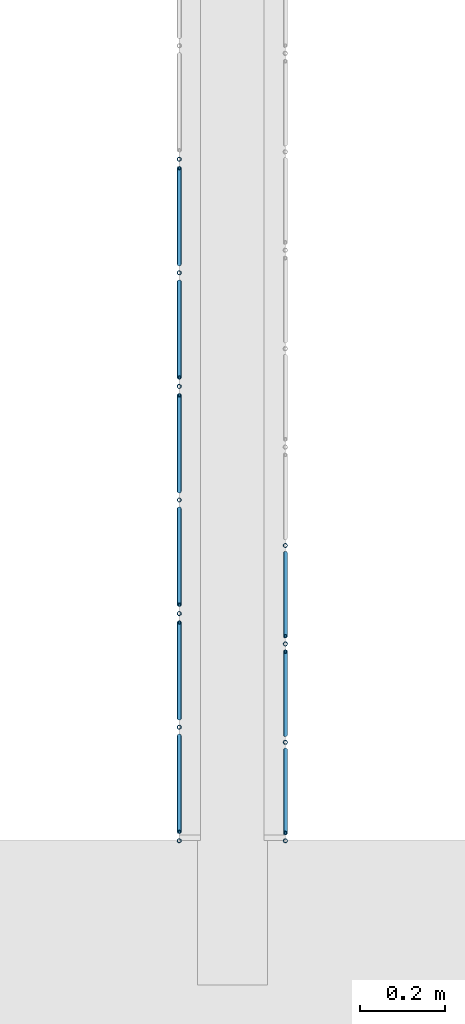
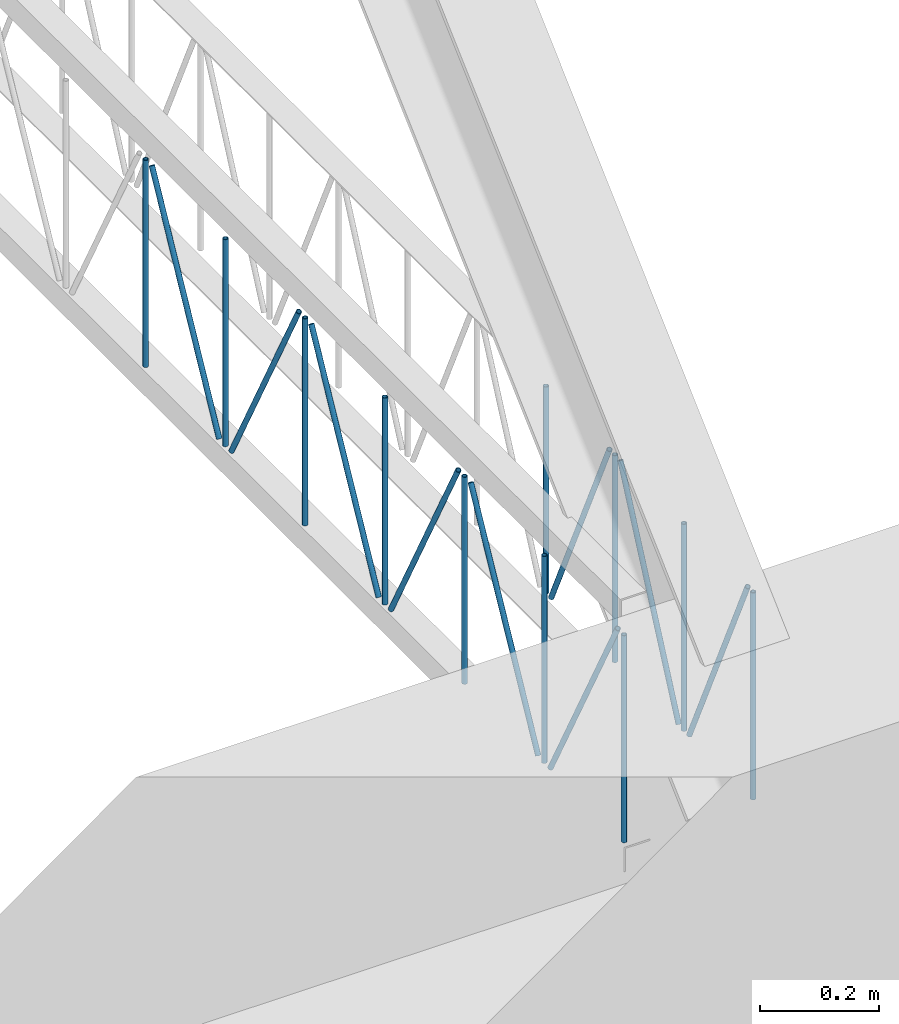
# One storey, part 14 of 153: 20 members, 2 elements without a shape of their own.
"""IFC4 building model written with IfcOpenShell, lengths in metres."""

import ifcopenshell
import ifcopenshell.guid

model = None  # the IFC model being written
_history = None  # IfcOwnerHistory: only IFC2X3 demands one
_inside = {}  # id of a spatial element -> (the spatial element, [elements in it])
_under = {}  # id of a project, library or spatial element -> (it, [spatial elements below it])
_declared = {}  # id of a project -> (the project, [libraries it declares])
_typed = {}  # id of a type object -> (the type object, [elements of that type])
_made_of = {}  # id of a material, layer set ... -> (it, [elements and type objects made of it])


def new_model(schema):
    """Start an empty IFC model of exactly this schema.

    Asked for "IFC4X3", IfcOpenShell would pick the latest addendum, in which some entities
    have other attributes; the version numbers below select the first issue.
    IFC2X3 requires an IfcOwnerHistory on every rooted entity: one is made here for all.
    """
    global model, _history
    if schema == "IFC4X3":
        model = ifcopenshell.file(schema_version=(4, 3, 0, 0))
    else:
        model = ifcopenshell.file(schema=schema)
    _inside.clear()
    _under.clear()
    _declared.clear()
    _typed.clear()
    _made_of.clear()
    _history = None
    if model.schema == "IFC2X3":
        org = make("IfcOrganization", Name="unknown")
        user = make(
            "IfcPersonAndOrganization",
            ThePerson=make("IfcPerson", FamilyName="unknown"),
            TheOrganization=org,
        )
        app = make(
            "IfcApplication",
            ApplicationDeveloper=org,
            Version="unknown",
            ApplicationFullName="unknown",
            ApplicationIdentifier="unknown",
        )
        _history = make(
            "IfcOwnerHistory",
            OwningUser=user,
            OwningApplication=app,
            ChangeAction="ADDED",
            CreationDate=0,
        )
    return model


def make(cls, **values):
    """One entity of the class cls with the attributes given. An attribute that is None is left unset."""
    return model.create_entity(
        cls, **{name: value for name, value in values.items() if value is not None}
    )


def entity(cls, *values):
    """Any entity or typed value of the class cls, its attributes in the order of the schema. None: left unset."""
    e = model.create_entity(cls)
    for i, value in enumerate(values):
        if value is not None:
            e[i] = value
    return e


def rooted(cls, **values):
    """An entity with a GlobalId (a new one), such as an element, a storey or a relation."""
    return make(cls, GlobalId=ifcopenshell.guid.new(), OwnerHistory=_history, **values)


def si_unit(unit_type, name, prefix=None):
    """IfcSIUnit, for example si_unit("LENGTHUNIT", "METRE", prefix="MILLI")."""
    return make("IfcSIUnit", UnitType=unit_type, Prefix=prefix, Name=name)


def converted_unit(unit_type, name, factor, base, dimensions=None, offset=None):
    """IfcConversionBasedUnit, such as the inch: factor (a typed value) times the base unit."""
    return make(
        "IfcConversionBasedUnit"
        if offset is None
        else "IfcConversionBasedUnitWithOffset",
        ConversionOffset=offset,
        Dimensions=None
        if dimensions is None
        else entity("IfcDimensionalExponents", *dimensions),
        UnitType=unit_type,
        Name=name,
        ConversionFactor=make(
            "IfcMeasureWithUnit", ValueComponent=factor, UnitComponent=base
        ),
    )


def derived_unit(unit_type, elements):
    """IfcDerivedUnit: a product of units, each with its exponent."""
    return make(
        "IfcDerivedUnit",
        Elements=[
            make("IfcDerivedUnitElement", Unit=unit, Exponent=power)
            for unit, power in elements
        ],
        UnitType=unit_type,
    )


def assignment(units):
    """IfcUnitAssignment: the units of a project."""
    return None if units is None else make("IfcUnitAssignment", Units=units)


def point(xyz):
    """IfcCartesianPoint."""
    return None if xyz is None else make("IfcCartesianPoint", Coordinates=xyz)


def direction(xyz):
    """IfcDirection."""
    return None if xyz is None else make("IfcDirection", DirectionRatios=xyz)


def frame(location, z_axis=None, x_axis=None):
    """IfcAxis2Placement3D, a coordinate frame: its origin and axes. An axis left out is left unset."""
    return make(
        "IfcAxis2Placement3D",
        Location=point(location),
        Axis=direction(z_axis),
        RefDirection=direction(x_axis),
    )


def origin():
    """The frame at (0, 0, 0) with its axes left unset."""
    return frame((0.0, 0.0, 0.0))


def place(relative_to, where):
    """IfcLocalPlacement: puts the frame where relative to a parent placement (None: the world)."""
    return make(
        "IfcLocalPlacement", PlacementRelTo=relative_to, RelativePlacement=where
    )


def context(
    kind, dimensions, precision=None, world=None, true_north=None, identifier=None
):
    """IfcGeometricRepresentationContext, for example the 3D "Model" context."""
    return make(
        "IfcGeometricRepresentationContext",
        ContextIdentifier=identifier,
        ContextType=kind,
        CoordinateSpaceDimension=dimensions,
        Precision=precision,
        WorldCoordinateSystem=world,
        TrueNorth=true_north,
    )


def subcontext(parent, identifier, kind, view, scale=None):
    """IfcGeometricRepresentationSubContext, for example "Body" below "Model"."""
    return make(
        "IfcGeometricRepresentationSubContext",
        ContextIdentifier=identifier,
        ContextType=kind,
        ParentContext=parent,
        TargetScale=scale,
        TargetView=view,
    )


def project(units=None, contexts=None):
    """IfcProject with its units and contexts."""
    return rooted(
        "IfcProject",
        Name="project",
        RepresentationContexts=contexts,
        UnitsInContext=assignment(units),
    )


def spatial(cls, under=None, at=None, **own):
    """A site, building, storey or space (cls), placed at a placement, below another one or the project."""
    s = rooted(cls, ObjectPlacement=at, **own)
    if under is not None:
        _under.setdefault(under.id(), (under, []))[1].append(s)
    return s


def point_list(points):
    """IfcCartesianPointList2D or 3D."""
    cls = (
        "IfcCartesianPointList2D" if len(points[0]) == 2 else "IfcCartesianPointList3D"
    )
    return make(cls, CoordList=points)


def arc(*indices):
    """IfcArcIndex: an arc through three numbered points of an indexed curve."""
    return model.create_entity("IfcArcIndex", indices)


def indexed_curve(points, segments=None, self_intersect=None):
    """IfcIndexedPolyCurve: lines and arcs through numbered points (the first is 1)."""
    return make(
        "IfcIndexedPolyCurve",
        Points=point_list(points),
        Segments=segments,
        SelfIntersect=self_intersect,
    )


def outline(outer, holes=None, kind="AREA"):
    """IfcArbitraryClosedProfileDef: a profile drawn as a closed curve; with holes, ...WithVoids."""
    if holes is None:
        return make("IfcArbitraryClosedProfileDef", ProfileType=kind, OuterCurve=outer)
    return make(
        "IfcArbitraryProfileDefWithVoids",
        ProfileType=kind,
        OuterCurve=outer,
        InnerCurves=holes,
    )


def extrude(swept, where, along, depth):
    """IfcExtrudedAreaSolid: the profile swept, set in the frame where, extruded along a direction by depth."""
    return make(
        "IfcExtrudedAreaSolid",
        SweptArea=swept,
        Position=where,
        ExtrudedDirection=direction(along),
        Depth=depth,
    )


def shape(context_of_items, identifier, shape_type, items):
    """IfcShapeRepresentation: the items that make up one representation, for example the "Body"."""
    return make(
        "IfcShapeRepresentation",
        ContextOfItems=context_of_items,
        RepresentationIdentifier=identifier,
        RepresentationType=shape_type,
        Items=items,
    )


def source(mapping_origin, context_of_items, identifier, shape_type, items):
    """IfcRepresentationMap: a shape defined once, which mapped items show again and again."""
    return make(
        "IfcRepresentationMap",
        MappingOrigin=mapping_origin,
        MappedRepresentation=shape(context_of_items, identifier, shape_type, items),
    )


def transform(
    local_origin,
    x_axis=None,
    y_axis=None,
    z_axis=None,
    scale=None,
    scale2=None,
    scale3=None,
    uniform=True,
):
    """IfcCartesianTransformationOperator3D, or its non-uniform kind. x_axis, y_axis, z_axis: its Axis1, 2, 3."""
    if uniform:
        return make(
            "IfcCartesianTransformationOperator3D",
            Axis1=direction(x_axis),
            Axis2=direction(y_axis),
            LocalOrigin=point(local_origin),
            Scale=scale,
            Axis3=direction(z_axis),
        )
    return make(
        "IfcCartesianTransformationOperator3DnonUniform",
        Axis1=direction(x_axis),
        Axis2=direction(y_axis),
        LocalOrigin=point(local_origin),
        Scale=scale,
        Axis3=direction(z_axis),
        Scale2=scale2,
        Scale3=scale3,
    )


def mapped(mapping_source, mapping_target):
    """IfcMappedItem: shows the shape of a source again, moved by a transform."""
    return make(
        "IfcMappedItem", MappingSource=mapping_source, MappingTarget=mapping_target
    )


def material(Name=None, Category=None):
    """IfcMaterial."""
    return make("IfcMaterial", Name=Name, Category=Category)


def made_of(thing, what):
    """Note that an element or type object is made of a material, layer set ...; save() writes the relation."""
    if what is not None:
        _made_of.setdefault(what.id(), (what, []))[1].append(thing)
    return thing


def type_object(cls, material=None, **own):
    """A type object (cls), such as IfcWallType, which elements share."""
    return made_of(rooted(cls, **own), material)


def type_shapes(of_type, sources):
    """Give a type object the sources (RepresentationMaps) that its elements show as mapped items."""
    of_type.RepresentationMaps = sources


def element(
    cls,
    number,
    at=None,
    inside=None,
    cuts=None,
    type_object=None,
    material=None,
    context=None,
    identifier="Body",
    shape_type=None,
    held_by="IfcProductDefinitionShape",
    body=None,
    shapes=None,
    **own,
):
    """One element of the class cls, such as IfcWall. Its Tag is "e" and its number.

    at: its placement. inside: the storey or other place that contains it. cuts: it is an
    opening in that element (IfcRelVoidsElement). A single representation is given by context,
    identifier, shape_type and body (its items); several are given by shapes. held_by: the class
    of the entity that holds the representations. save() writes the other relations.
    """
    e = rooted(cls, Tag="e%d" % number, ObjectPlacement=at, **own)
    if body is not None:
        shapes = [shape(context, identifier, shape_type, body)]
    if shapes is not None:
        e.Representation = make(held_by, Representations=shapes)
    if inside is not None:
        _inside.setdefault(inside.id(), (inside, []))[1].append(e)
    if cuts is not None:
        rooted(
            "IfcRelVoidsElement", RelatingBuildingElement=cuts, RelatedOpeningElement=e
        )
    if type_object is not None:
        _typed.setdefault(type_object.id(), (type_object, []))[1].append(e)
    return made_of(e, material)


def aggregate(whole, parts):
    """IfcRelAggregates: a whole, such as a stair, and the parts it consists of."""
    return rooted("IfcRelAggregates", RelatingObject=whole, RelatedObjects=parts)


def save(model, path):
    """Write the relations noted so far, then the file.

    IfcRelAggregates (storeys below a building ...), IfcRelContainedInSpatialStructure (elements
    in a storey), IfcRelDefinesByType, IfcRelAssociatesMaterial and IfcRelDeclares: one each for
    every whole, place, type object, material and project.
    """
    for whole, parts in _under.values():
        aggregate(whole, parts)
    for where, things in _inside.values():
        rooted(
            "IfcRelContainedInSpatialStructure",
            RelatedElements=things,
            RelatingStructure=where,
        )
    for kind, things in _typed.values():
        rooted("IfcRelDefinesByType", RelatedObjects=things, RelatingType=kind)
    for what, things in _made_of.values():
        rooted("IfcRelAssociatesMaterial", RelatedObjects=things, RelatingMaterial=what)
    for by, libraries in _declared.values():
        rooted("IfcRelDeclares", RelatingContext=by, RelatedDefinitions=libraries)
    model.write(path)


model = new_model("IFC4")

# Units and contexts
model_context = context("Model", 3, precision=1e-05, world=origin(), true_north=direction((6.123031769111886e-17, 1.0)))
body_context = subcontext(model_context, "Body", "Model", "MODEL_VIEW")
ifc_project = project(units=[si_unit("LENGTHUNIT", "METRE"), si_unit("AREAUNIT", "SQUARE_METRE"), si_unit("VOLUMEUNIT", "CUBIC_METRE"), converted_unit("PLANEANGLEUNIT", "DEGREE", entity("IfcRatioMeasure", 0.017453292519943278), si_unit("PLANEANGLEUNIT", "RADIAN"), dimensions=[0, 0, 0, 0, 0, 0, 0]), si_unit("MASSUNIT", "GRAM", prefix="KILO"), derived_unit("MASSDENSITYUNIT", [(si_unit("MASSUNIT", "GRAM", prefix="KILO"), 1), (si_unit("LENGTHUNIT", "METRE"), -3)]), derived_unit("MOMENTOFINERTIAUNIT", [(si_unit("LENGTHUNIT", "METRE"), 4)]), si_unit("TIMEUNIT", "SECOND"), si_unit("FREQUENCYUNIT", "HERTZ"), si_unit("THERMODYNAMICTEMPERATUREUNIT", "DEGREE_CELSIUS"), derived_unit("THERMALTRANSMITTANCEUNIT", [(si_unit("MASSUNIT", "GRAM", prefix="KILO"), 1), (si_unit("THERMODYNAMICTEMPERATUREUNIT", "KELVIN"), -1), (si_unit("TIMEUNIT", "SECOND"), -3)]), derived_unit("VOLUMETRICFLOWRATEUNIT", [(si_unit("LENGTHUNIT", "METRE"), 3), (si_unit("TIMEUNIT", "SECOND"), -1)]), derived_unit("MASSFLOWRATEUNIT", [(si_unit("MASSUNIT", "GRAM", prefix="KILO"), 1), (si_unit("TIMEUNIT", "SECOND"), -1)]), derived_unit("ROTATIONALFREQUENCYUNIT", [(si_unit("TIMEUNIT", "SECOND"), -1)]), si_unit("ELECTRICCURRENTUNIT", "AMPERE"), si_unit("ELECTRICVOLTAGEUNIT", "VOLT"), si_unit("POWERUNIT", "WATT"), si_unit("FORCEUNIT", "NEWTON", prefix="KILO"), si_unit("ILLUMINANCEUNIT", "LUX"), si_unit("LUMINOUSFLUXUNIT", "LUMEN"), si_unit("LUMINOUSINTENSITYUNIT", "CANDELA"), derived_unit("USERDEFINED", [(si_unit("MASSUNIT", "GRAM", prefix="KILO"), -1), (si_unit("LENGTHUNIT", "METRE"), -2), (si_unit("TIMEUNIT", "SECOND"), 3), (si_unit("LUMINOUSFLUXUNIT", "LUMEN"), 1)]), derived_unit("SOUNDPOWERUNIT", [(si_unit("MASSUNIT", "GRAM", prefix="KILO"), 1), (si_unit("LENGTHUNIT", "METRE"), 2), (si_unit("TIMEUNIT", "SECOND"), -3)]), derived_unit("SOUNDPRESSUREUNIT", [(si_unit("MASSUNIT", "GRAM", prefix="KILO"), 1), (si_unit("LENGTHUNIT", "METRE"), -1), (si_unit("TIMEUNIT", "SECOND"), -2)]), derived_unit("LINEARVELOCITYUNIT", [(si_unit("LENGTHUNIT", "METRE"), 1), (si_unit("TIMEUNIT", "SECOND"), -1)]), si_unit("PRESSUREUNIT", "PASCAL"), derived_unit("USERDEFINED", [(si_unit("LENGTHUNIT", "METRE"), -2), (si_unit("MASSUNIT", "GRAM", prefix="KILO"), 1), (si_unit("TIMEUNIT", "SECOND"), -2)]), derived_unit("LINEARFORCEUNIT", [(si_unit("MASSUNIT", "GRAM", prefix="KILO"), 1), (si_unit("LENGTHUNIT", "METRE"), 1), (si_unit("TIMEUNIT", "SECOND"), -2), (si_unit("LENGTHUNIT", "METRE"), -1)]), derived_unit("PLANARFORCEUNIT", [(si_unit("MASSUNIT", "GRAM", prefix="KILO"), 1), (si_unit("LENGTHUNIT", "METRE"), 1), (si_unit("TIMEUNIT", "SECOND"), -2), (si_unit("LENGTHUNIT", "METRE"), -2)])], contexts=[model_context])

# Site, building, storey
site_placement = place(None, origin())
site = spatial("IfcSite", under=ifc_project, at=site_placement, Name="Superficie", CompositionType="ELEMENT")
building_placement = place(site_placement, origin())
building = spatial("IfcBuilding", under=site, at=building_placement, CompositionType="ELEMENT")
storey_placement = place(building_placement, frame((0.0, 0.0, 3.5999999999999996)))
storey = spatial("IfcBuildingStorey", under=building, at=storey_placement, Name="Nivel 1", CompositionType="ELEMENT", Elevation=3.5999999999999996)

# Assembly, members
assembly_1_placement = place(storey_placement, origin())
assembly_1 = element("IfcElementAssembly", 1, at=assembly_1_placement, inside=storey, Name="Viga de celosia 13:Viga de celosia 13", ObjectType="Viga de celosia 13:Viga de celosia 13", AssemblyPlace="NOTDEFINED", PredefinedType="TRUSS")
ifc_material = material(Name="Metal - Calibre delgado", Category="Metal")
member_type_1 = type_object("IfcMemberType", Name="HSS-Tubo estructural redondo:HSS 0.01", PredefinedType="BRACE", material=ifc_material)
shared_shape_1 = source(origin(), body_context, "Body", "SweptSolid", [
    extrude(outline(indexed_curve([(-0.005000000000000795, 7.502054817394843e-18), (-9.800269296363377e-18, -0.005000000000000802), (0.005000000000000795, -7.502054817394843e-18), (8.07772287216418e-18, 0.005000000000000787)], segments=[arc(1, 2, 3), arc(3, 4, 1)], self_intersect=False), holes=[indexed_curve([(0.003999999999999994, 7.222511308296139e-17), (6.910645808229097e-17, -0.004000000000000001), (-0.003999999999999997, -1.8650054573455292e-17), (-2.9156497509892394e-17, 0.003999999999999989)], segments=[arc(1, 2, 3), arc(3, 4, 1)], self_intersect=False)]), frame((-0.21200000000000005, 0.0, 0.0), z_axis=(1.0, 0.0, 0.0), x_axis=(0.0, 1.0, 0.0)), (0.0, 0.0, 1.0), 0.4240000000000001),
])
type_shapes(member_type_1, [shared_shape_1])
member_1_placement = place(assembly_1_placement, frame((-18.70320098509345, -12.94350251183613, 0.25), z_axis=(0.0, 1.0, 0.0), x_axis=(0.0, 0.0, 1.0)))
member_1 = element("IfcMember", 2, at=member_1_placement, type_object=member_type_1, material=ifc_material, Name="HSS-Tubo estructural redondo:HSS 0.01", ObjectType="HSS-Tubo estructural redondo:HSS 0.01", PredefinedType="BRACE", context=body_context, shape_type="MappedRepresentation", body=[
    mapped(shared_shape_1, transform((0.0, 0.0, 0.0), scale=1.0)),
])
member_2_placement = place(assembly_1_placement, frame((-18.70320098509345, -12.676002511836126, 0.25), z_axis=(0.0, 1.0, 0.0), x_axis=(0.0, 0.0, 1.0)))
member_2 = element("IfcMember", 3, at=member_2_placement, type_object=member_type_1, material=ifc_material, Name="HSS-Tubo estructural redondo:HSS 0.01", ObjectType="HSS-Tubo estructural redondo:HSS 0.01", PredefinedType="BRACE", context=body_context, shape_type="MappedRepresentation", body=[
    mapped(shared_shape_1, transform((0.0, 0.0, 0.0), scale=1.0)),
])
member_3_placement = place(assembly_1_placement, frame((-18.70320098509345, -12.408502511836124, 0.25), z_axis=(0.0, 1.0, 0.0), x_axis=(0.0, 0.0, 1.0)))
member_3 = element("IfcMember", 4, at=member_3_placement, type_object=member_type_1, material=ifc_material, Name="HSS-Tubo estructural redondo:HSS 0.01", ObjectType="HSS-Tubo estructural redondo:HSS 0.01", PredefinedType="BRACE", context=body_context, shape_type="MappedRepresentation", body=[
    mapped(shared_shape_1, transform((0.0, 0.0, 0.0), scale=1.0)),
])
member_4_placement = place(assembly_1_placement, frame((-18.703200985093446, -12.141002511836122, 0.25), z_axis=(0.0, 1.0, 0.0), x_axis=(0.0, 0.0, 1.0)))
member_4 = element("IfcMember", 5, at=member_4_placement, type_object=member_type_1, material=ifc_material, Name="HSS-Tubo estructural redondo:HSS 0.01", ObjectType="HSS-Tubo estructural redondo:HSS 0.01", PredefinedType="BRACE", context=body_context, shape_type="MappedRepresentation", body=[
    mapped(shared_shape_1, transform((0.0, 0.0, 0.0), scale=1.0)),
])
member_5_placement = place(assembly_1_placement, frame((-18.703200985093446, -11.873502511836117, 0.25), z_axis=(0.0, 1.0, 0.0), x_axis=(0.0, 0.0, 1.0)))
member_5 = element("IfcMember", 6, at=member_5_placement, type_object=member_type_1, material=ifc_material, Name="HSS-Tubo estructural redondo:HSS 0.01", ObjectType="HSS-Tubo estructural redondo:HSS 0.01", PredefinedType="BRACE", context=body_context, shape_type="MappedRepresentation", body=[
    mapped(shared_shape_1, transform((0.0, 0.0, 0.0), scale=1.0)),
])
member_6_placement = place(assembly_1_placement, frame((-18.703200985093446, -11.60600251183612, 0.25), z_axis=(0.0, 1.0, 0.0), x_axis=(0.0, 0.0, 1.0)))
member_6 = element("IfcMember", 7, at=member_6_placement, type_object=member_type_1, material=ifc_material, Name="HSS-Tubo estructural redondo:HSS 0.01", ObjectType="HSS-Tubo estructural redondo:HSS 0.01", PredefinedType="BRACE", context=body_context, shape_type="MappedRepresentation", body=[
    mapped(shared_shape_1, transform((0.0, 0.0, 0.0), scale=1.0)),
])
member_7_placement = place(assembly_1_placement, frame((-18.703200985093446, -11.338502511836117, 0.25), z_axis=(0.0, 1.0, 0.0), x_axis=(0.0, 0.0, 1.0)))
member_7 = element("IfcMember", 8, at=member_7_placement, type_object=member_type_1, material=ifc_material, Name="HSS-Tubo estructural redondo:HSS 0.01", ObjectType="HSS-Tubo estructural redondo:HSS 0.01", PredefinedType="BRACE", context=body_context, shape_type="MappedRepresentation", body=[
    mapped(shared_shape_1, transform((0.0, 0.0, 0.0), scale=1.0)),
])

assembly_2_placement = place(storey_placement, origin())
assembly_2 = element("IfcElementAssembly", 9, at=assembly_2_placement, inside=storey, Name="Viga de celosia 13:Viga de celosia 13", ObjectType="Viga de celosia 13:Viga de celosia 13", AssemblyPlace="NOTDEFINED", PredefinedType="TRUSS")
member_type_2 = type_object("IfcMemberType", Name="HSS-Tubo estructural redondo:HSS 0.01", PredefinedType="BRACE", material=ifc_material)
shared_shape_2 = source(origin(), body_context, "Body", "SweptSolid", [
    extrude(outline(indexed_curve([(-0.005000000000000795, 2.0824731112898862e-17), (-2.3122945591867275e-17, -0.005000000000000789), (0.005000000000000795, -2.08247311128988e-17), (2.14003991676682e-17, 0.005000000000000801)], segments=[arc(1, 2, 3), arc(3, 4, 1)], self_intersect=False), holes=[indexed_curve([(0.003999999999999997, -1.3094283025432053e-17), (-1.531427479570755e-18, -0.003999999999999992), (-0.004, 4.0098531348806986e-17), (4.1481388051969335e-17, 0.0039999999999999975)], segments=[arc(1, 2, 3), arc(3, 4, 1)], self_intersect=False)]), frame((-0.21200000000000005, 0.0, 0.0), z_axis=(1.0, 0.0, 0.0), x_axis=(0.0, -1.0, 0.0)), (0.0, 0.0, 1.0), 0.4240000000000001),
])
type_shapes(member_type_2, [shared_shape_2])
member_8_placement = place(assembly_2_placement, frame((-18.45320098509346, -12.943502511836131, 0.25), z_axis=(0.0, 1.0, 0.0), x_axis=(0.0, 0.0, 1.0)))
member_8 = element("IfcMember", 10, at=member_8_placement, type_object=member_type_2, material=ifc_material, Name="HSS-Tubo estructural redondo:HSS 0.01", ObjectType="HSS-Tubo estructural redondo:HSS 0.01", PredefinedType="BRACE", context=body_context, shape_type="MappedRepresentation", body=[
    mapped(shared_shape_2, transform((0.0, 0.0, 0.0), scale=1.0)),
])
member_9_placement = place(assembly_2_placement, frame((-18.45320098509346, -12.711716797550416, 0.25), z_axis=(0.0, 1.0, 0.0), x_axis=(0.0, 0.0, 1.0)))
member_9 = element("IfcMember", 11, at=member_9_placement, type_object=member_type_2, material=ifc_material, Name="HSS-Tubo estructural redondo:HSS 0.01", ObjectType="HSS-Tubo estructural redondo:HSS 0.01", PredefinedType="BRACE", context=body_context, shape_type="MappedRepresentation", body=[
    mapped(shared_shape_2, transform((0.0, 0.0, 0.0), scale=1.0)),
])
member_10_placement = place(assembly_2_placement, frame((-18.45320098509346, -12.479931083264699, 0.25), z_axis=(0.0, 1.0, 0.0), x_axis=(0.0, 0.0, 1.0)))
member_10 = element("IfcMember", 12, at=member_10_placement, type_object=member_type_2, material=ifc_material, Name="HSS-Tubo estructural redondo:HSS 0.01", ObjectType="HSS-Tubo estructural redondo:HSS 0.01", PredefinedType="BRACE", context=body_context, shape_type="MappedRepresentation", body=[
    mapped(shared_shape_2, transform((0.0, 0.0, 0.0), scale=1.0)),
])
member_11_placement = place(assembly_2_placement, frame((-18.453200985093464, -12.248145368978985, 0.25), z_axis=(0.0, 1.0, 0.0), x_axis=(0.0, 0.0, 1.0)))
member_11 = element("IfcMember", 13, at=member_11_placement, type_object=member_type_2, material=ifc_material, Name="HSS-Tubo estructural redondo:HSS 0.01", ObjectType="HSS-Tubo estructural redondo:HSS 0.01", PredefinedType="BRACE", context=body_context, shape_type="MappedRepresentation", body=[
    mapped(shared_shape_2, transform((0.0, 0.0, 0.0), scale=1.0)),
])

# Member
member_type_3 = type_object("IfcMemberType", Name="HSS-Tubo estructural redondo:HSS 0.01", PredefinedType="BRACE", material=ifc_material)
shared_shape_3 = source(origin(), body_context, "Body", "SweptSolid", [
    extrude(outline(indexed_curve([(-0.005000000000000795, 7.502054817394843e-18), (-9.800269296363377e-18, -0.005000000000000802), (0.005000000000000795, -7.502054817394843e-18), (8.07772287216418e-18, 0.005000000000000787)], segments=[arc(1, 2, 3), arc(3, 4, 1)], self_intersect=False), holes=[indexed_curve([(0.003999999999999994, 7.222511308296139e-17), (6.910645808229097e-17, -0.004000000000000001), (-0.003999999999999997, -1.8650054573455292e-17), (-2.9156497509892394e-17, 0.003999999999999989)], segments=[arc(1, 2, 3), arc(3, 4, 1)], self_intersect=False)]), frame((-0.23950000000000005, 0.0, 0.0), z_axis=(1.0, 0.0, 0.0), x_axis=(0.0, 1.0, 0.0)), (0.0, 0.0, 1.0), 0.4790000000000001),
])
type_shapes(member_type_3, [shared_shape_3])
member_12_placement = place(assembly_1_placement, frame((-18.70320098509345, -12.809752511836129, 0.25), z_axis=(0.0, -0.8817419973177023, -0.47173196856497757), x_axis=(0.0, 0.47173196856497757, -0.8817419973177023)))
member_12 = element("IfcMember", 14, at=member_12_placement, type_object=member_type_3, material=ifc_material, Name="HSS-Tubo estructural redondo:HSS 0.01", ObjectType="HSS-Tubo estructural redondo:HSS 0.01", PredefinedType="BRACE", context=body_context, shape_type="MappedRepresentation", body=[
    mapped(shared_shape_3, transform((0.0, 0.0, 0.0), scale=1.0)),
])

member_13_placement = place(assembly_1_placement, frame((-18.70320098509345, -12.542252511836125, 0.25), z_axis=(0.0, 0.881741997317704, -0.47173196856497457), x_axis=(0.0, 0.47173196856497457, 0.881741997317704)))
member_13 = element("IfcMember", 15, at=member_13_placement, type_object=member_type_3, material=ifc_material, Name="HSS-Tubo estructural redondo:HSS 0.01", ObjectType="HSS-Tubo estructural redondo:HSS 0.01", PredefinedType="BRACE", context=body_context, shape_type="MappedRepresentation", body=[
    mapped(shared_shape_3, transform((0.0, 0.0, 0.0), scale=1.0)),
])

member_14_placement = place(assembly_1_placement, frame((-18.70320098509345, -12.274752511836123, 0.25), z_axis=(0.0, -0.8817419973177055, -0.4717319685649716), x_axis=(0.0, 0.4717319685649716, -0.8817419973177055)))
member_14 = element("IfcMember", 16, at=member_14_placement, type_object=member_type_3, material=ifc_material, Name="HSS-Tubo estructural redondo:HSS 0.01", ObjectType="HSS-Tubo estructural redondo:HSS 0.01", PredefinedType="BRACE", context=body_context, shape_type="MappedRepresentation", body=[
    mapped(shared_shape_3, transform((0.0, 0.0, 0.0), scale=1.0)),
])

member_15_placement = place(assembly_1_placement, frame((-18.703200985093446, -12.007252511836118, 0.2499999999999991), z_axis=(0.0, 0.8817419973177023, -0.47173196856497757), x_axis=(0.0, 0.47173196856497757, 0.8817419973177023)))
member_15 = element("IfcMember", 17, at=member_15_placement, type_object=member_type_3, material=ifc_material, Name="HSS-Tubo estructural redondo:HSS 0.01", ObjectType="HSS-Tubo estructural redondo:HSS 0.01", PredefinedType="BRACE", context=body_context, shape_type="MappedRepresentation", body=[
    mapped(shared_shape_3, transform((0.0, 0.0, 0.0), scale=1.0)),
])

member_16_placement = place(assembly_1_placement, frame((-18.703200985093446, -11.73975251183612, 0.25), z_axis=(0.0, -0.8817419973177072, -0.4717319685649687), x_axis=(0.0, 0.4717319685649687, -0.8817419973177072)))
member_16 = element("IfcMember", 18, at=member_16_placement, type_object=member_type_3, material=ifc_material, Name="HSS-Tubo estructural redondo:HSS 0.01", ObjectType="HSS-Tubo estructural redondo:HSS 0.01", PredefinedType="BRACE", context=body_context, shape_type="MappedRepresentation", body=[
    mapped(shared_shape_3, transform((0.0, 0.0, 0.0), scale=1.0)),
])

member_17_placement = place(assembly_1_placement, frame((-18.703200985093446, -11.472252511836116, 0.2499999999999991), z_axis=(0.0, 0.8817419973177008, -0.4717319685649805), x_axis=(0.0, 0.4717319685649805, 0.8817419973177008)))
member_17 = element("IfcMember", 19, at=member_17_placement, type_object=member_type_3, material=ifc_material, Name="HSS-Tubo estructural redondo:HSS 0.01", ObjectType="HSS-Tubo estructural redondo:HSS 0.01", PredefinedType="BRACE", context=body_context, shape_type="MappedRepresentation", body=[
    mapped(shared_shape_3, transform((0.0, 0.0, 0.0), scale=1.0)),
])

aggregate(assembly_1, [member_1, member_2, member_3, member_4, member_5, member_6, member_7, member_12, member_13, member_14, member_15, member_16, member_17])

member_type_4 = type_object("IfcMemberType", Name="HSS-Tubo estructural redondo:HSS 0.01", PredefinedType="BRACE", material=ifc_material)
shared_shape_4 = source(origin(), body_context, "Body", "SweptSolid", [
    extrude(outline(indexed_curve([(-0.005000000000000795, 2.0824731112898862e-17), (-2.3122945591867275e-17, -0.005000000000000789), (0.005000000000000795, -2.08247311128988e-17), (2.14003991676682e-17, 0.005000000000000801)], segments=[arc(1, 2, 3), arc(3, 4, 1)], self_intersect=False), holes=[indexed_curve([(0.003999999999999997, -1.3094283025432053e-17), (-1.531427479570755e-18, -0.003999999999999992), (-0.004, 4.0098531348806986e-17), (4.1481388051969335e-17, 0.0039999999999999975)], segments=[arc(1, 2, 3), arc(3, 4, 1)], self_intersect=False)]), frame((-0.2325, 0.0, 0.0), z_axis=(1.0, 0.0, 0.0), x_axis=(0.0, -1.0, 0.0)), (0.0, 0.0, 1.0), 0.465),
])
type_shapes(member_type_4, [shared_shape_4])
member_18_placement = place(assembly_2_placement, frame((-18.45320098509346, -12.827609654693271, 0.2500000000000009), z_axis=(0.0, -0.907256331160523, -0.4205781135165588), x_axis=(0.0, 0.4205781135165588, -0.907256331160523)))
member_18 = element("IfcMember", 20, at=member_18_placement, type_object=member_type_4, material=ifc_material, Name="HSS-Tubo estructural redondo:HSS 0.01", ObjectType="HSS-Tubo estructural redondo:HSS 0.01", PredefinedType="BRACE", context=body_context, shape_type="MappedRepresentation", body=[
    mapped(shared_shape_4, transform((0.0, 0.0, 0.0), scale=1.0)),
])

member_19_placement = place(assembly_2_placement, frame((-18.45320098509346, -12.595823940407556, 0.25), z_axis=(0.0, 0.907256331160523, -0.4205781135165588), x_axis=(0.0, 0.4205781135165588, 0.907256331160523)))
member_19 = element("IfcMember", 21, at=member_19_placement, type_object=member_type_4, material=ifc_material, Name="HSS-Tubo estructural redondo:HSS 0.01", ObjectType="HSS-Tubo estructural redondo:HSS 0.01", PredefinedType="BRACE", context=body_context, shape_type="MappedRepresentation", body=[
    mapped(shared_shape_4, transform((0.0, 0.0, 0.0), scale=1.0)),
])

member_20_placement = place(assembly_2_placement, frame((-18.45320098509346, -12.364038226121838, 0.2500000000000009), z_axis=(0.0, -0.907256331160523, -0.4205781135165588), x_axis=(0.0, 0.4205781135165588, -0.907256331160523)))
member_20 = element("IfcMember", 22, at=member_20_placement, type_object=member_type_4, material=ifc_material, Name="HSS-Tubo estructural redondo:HSS 0.01", ObjectType="HSS-Tubo estructural redondo:HSS 0.01", PredefinedType="BRACE", context=body_context, shape_type="MappedRepresentation", body=[
    mapped(shared_shape_4, transform((0.0, 0.0, 0.0), scale=1.0)),
])

aggregate(assembly_2, [member_8, member_9, member_10, member_11, member_18, member_19, member_20])

save(model, "model.ifc")
